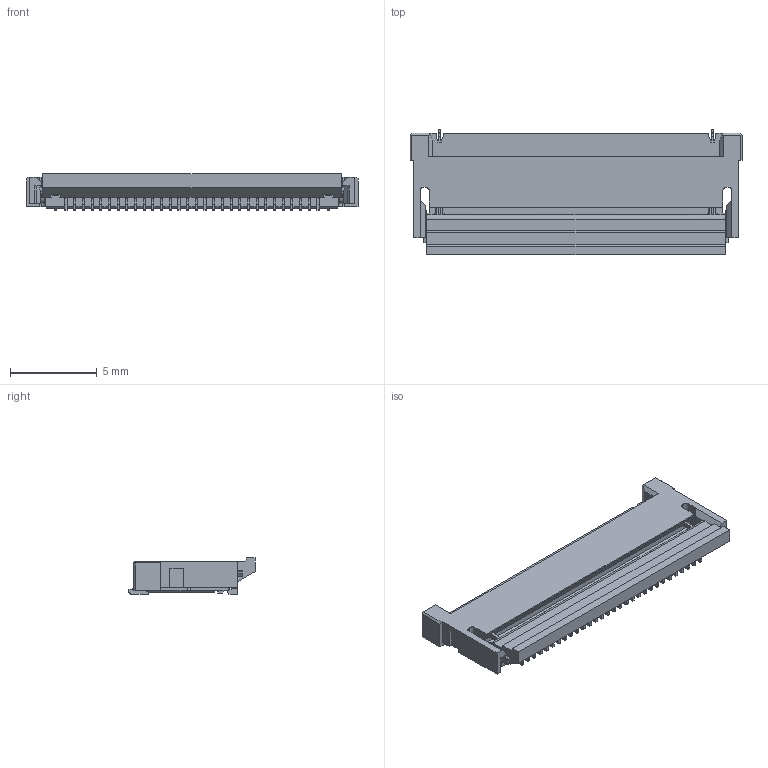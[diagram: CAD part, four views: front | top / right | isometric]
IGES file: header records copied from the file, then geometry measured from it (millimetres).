
Start section: SolidWorks IGES file using analytic representation for surfaces
Global section: file name: N:\Kamikawa_Hisako\★三次元モデル作成依頼\6882\20240129_6882\04_6882_130_399_846_+.IGS; native system: SolidWorks 2023; preprocessor: SolidWorks 2023; author: HISAKO.KAMIKAWA.FJ; date: 240129.141712; units: millimetre
Bounding box: 19.1 x 7.25 x 2.1 mm (x, y, z)
Surface area: 499.8 mm2 (no closed solid volume)
Topology: 0 solids, 0 shells, 851 faces, 5421 edges, 5420 vertices
Faces by surface type: bspline 638, revolution 213
